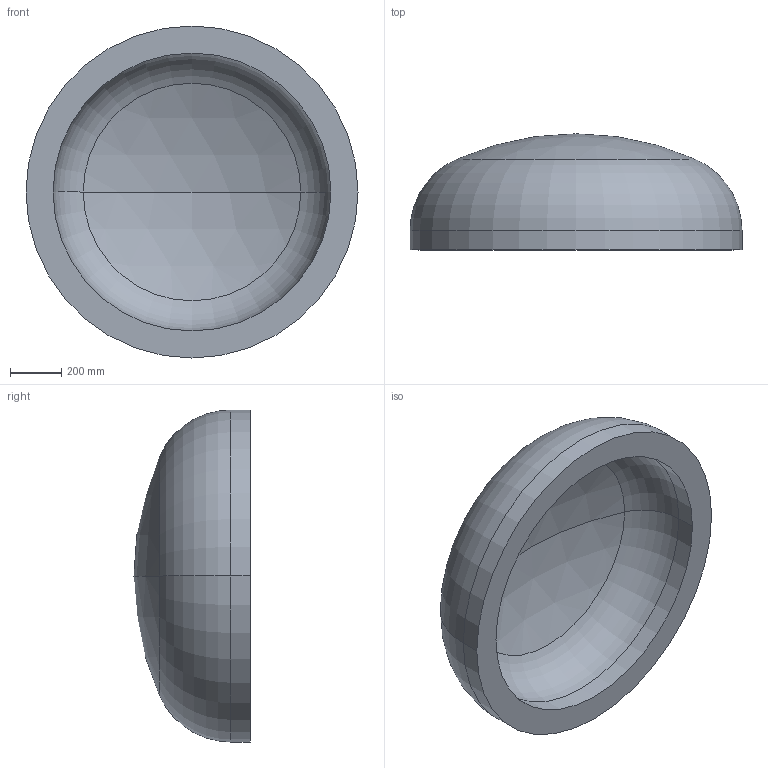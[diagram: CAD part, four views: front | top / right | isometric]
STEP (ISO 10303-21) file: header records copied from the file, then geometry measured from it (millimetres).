
FILE_DESCRIPTION (( 'STEP AP203' ), '1' );
FILE_NAME ('DIN 28013 Korbbogenform_-_Boden DIN 28013 - 1300 x 75 - I - s=106.step', '2016-07-01T10:02:50', ( '' ), ( '' ), 'SwSTEP 2.0', 'SolidWorks 2013', '' );
FILE_SCHEMA (( 'CONFIG_CONTROL_DESIGN' ));
Length unit declared in the file: millimetre
Products named in the file (1): DIN 28013 Korbbogenform_-_Boden DIN 28013 - 1300 x 75 - I - s=106
Bounding box: 1300 x 454.67 x 1300 mm (x, y, z)
Volume: 205710201.9 mm3; surface area: 4302468.9 mm2
Topology: 1 solids, 1 shells, 13 faces, 24 edges, 14 vertices
Faces by surface type: torus 4, cylinder 4, sphere 4, plane 1
Entity records: 407 total; most frequent: DIRECTION 72, CARTESIAN_POINT 52, ORIENTED_EDGE 48, AXIS2_PLACEMENT_3D 34, EDGE_CURVE 24, CIRCLE 20, VERTEX_POINT 14, EDGE_LOOP 14
